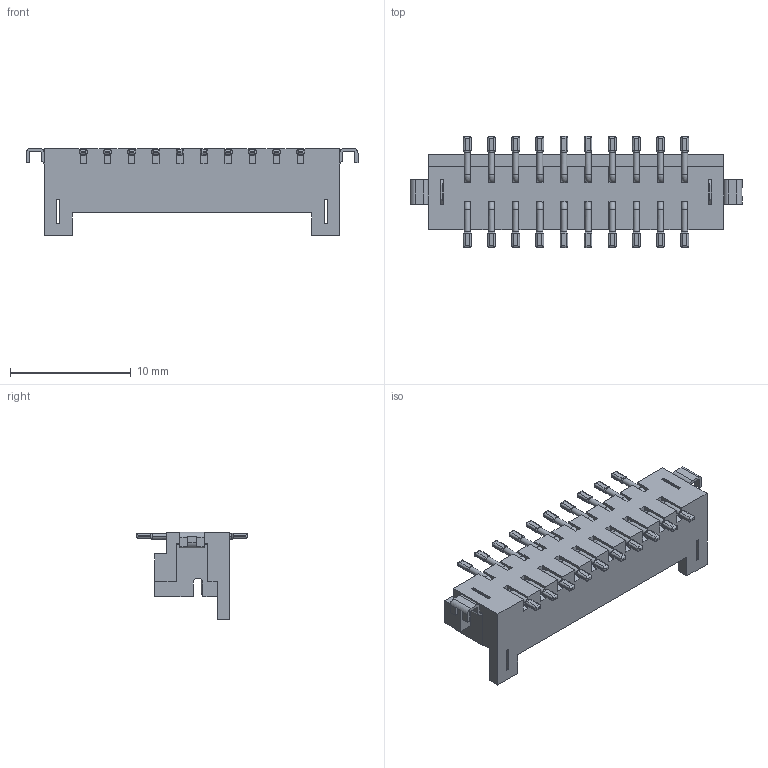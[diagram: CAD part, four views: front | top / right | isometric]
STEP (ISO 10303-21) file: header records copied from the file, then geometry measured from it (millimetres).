
FILE_DESCRIPTION(('OneSpaceDesigner STEP Export'),'2;1');
FILE_NAME('DF11C-20DP-2V.stp','2007-03-22T11:58:43',(''),(''),'OneSpace Designer STEP processor (Jan. 2003) for AP214(CD)(Solid Model)','OneSpace Designer 12.00 10-Sep-2003 (C) CoCreate Software GmbH','');
FILE_SCHEMA(('AUTOMOTIVE_DESIGN_CC2 {1 2 10303 214 -1 1 5 1}'));
Length unit declared in the file: millimetre
Products named in the file (2): DF11C-20DP-2VÈª
Assembly tree (1 placements, depth 2):
  DF11C-20DP-2VÈª
    DF11C-20DP-2VÈª
Bounding box: 27.5 x 9.2 x 7.25 mm (x, y, z)
Volume: 483.6 mm3; surface area: 1137.6 mm2
Topology: 1 solids, 1 shells, 946 faces, 2646 edges, 1712 vertices
Faces by surface type: plane 356, cylinder 308, bspline 202, torus 80
Entity records: 33738 total; most frequent: CARTESIAN_POINT 13213, ORIENTED_EDGE 5292, DIRECTION 3348, EDGE_CURVE 2646, VERTEX_POINT 1712, AXIS2_PLACEMENT_3D 1123, VECTOR 1102, LINE 1102
